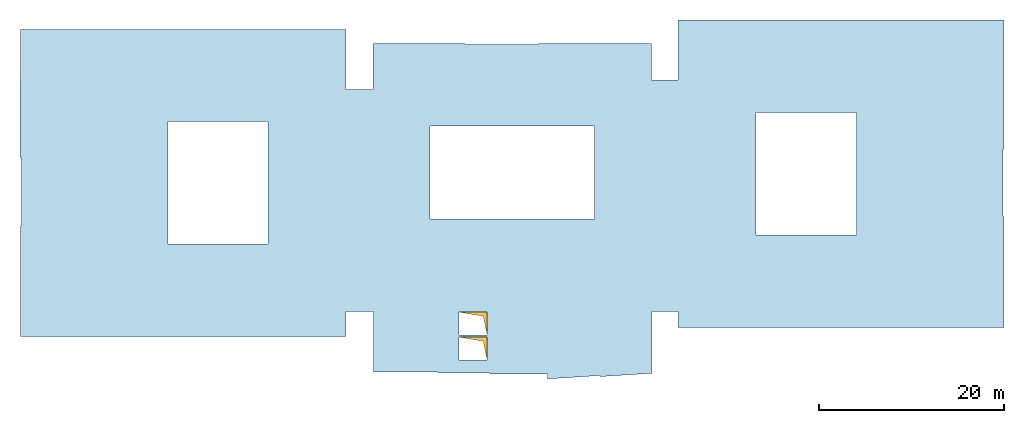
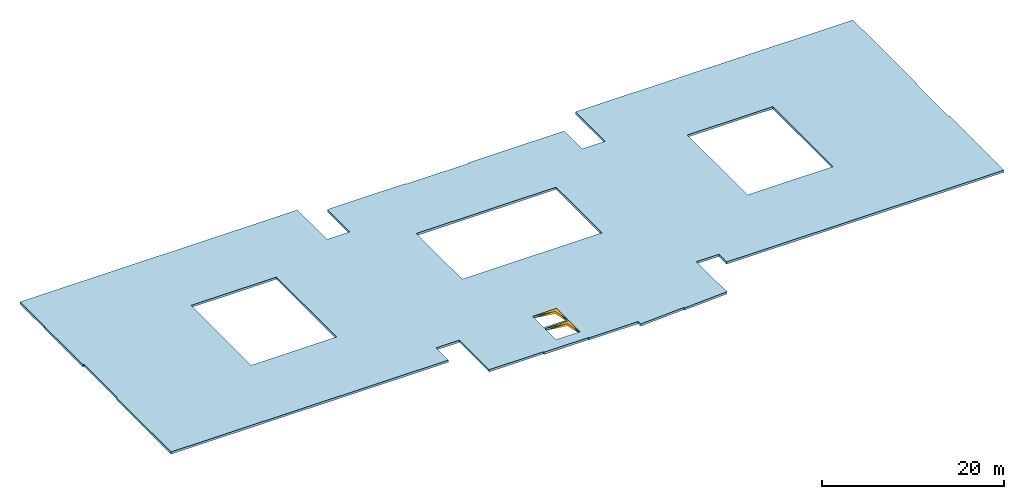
# One storey: 2 windows, 1 slab, 2 openings.
"""IFC4 building model written with IfcOpenShell, lengths in metres."""

from ifc_helpers import new_model, entity, si_unit, converted_unit, derived_unit, frame, frame_2d, origin, origin_with_axes, place, context, subcontext, project, spatial, polyline, rectangle, outline, extrude, open_shell, surface_model, source, transform, mapped, material, element, fill, save


model = new_model("IFC4")

# Units and contexts
model_context = context("Model", 3, precision=1e-05, world=origin())
body_context = subcontext(model_context, "Body", "Model", "MODEL_VIEW")
ifc_project = project(units=[si_unit("LENGTHUNIT", "METRE"), si_unit("AREAUNIT", "SQUARE_METRE"), si_unit("VOLUMEUNIT", "CUBIC_METRE"), si_unit("MASSUNIT", "GRAM", prefix="KILO"), converted_unit("PLANEANGLEUNIT", "DEGREE", entity("IfcPlaneAngleMeasure", 0.0174532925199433), si_unit("PLANEANGLEUNIT", "RADIAN"), dimensions=[0, 0, 0, 0, 0, 0, 0]), derived_unit("THERMALTRANSMITTANCEUNIT", [(si_unit("POWERUNIT", "WATT"), 1), (si_unit("THERMODYNAMICTEMPERATUREUNIT", "KELVIN"), -1), (si_unit("LENGTHUNIT", "METRE"), -2)]), derived_unit("VOLUMETRICFLOWRATEUNIT", [(si_unit("LENGTHUNIT", "METRE"), 3), (converted_unit("TIMEUNIT", "hour", entity("IfcTimeMeasure", 3600.0), si_unit("TIMEUNIT", "SECOND"), dimensions=[0, 0, 1, 0, 0, 0, 0]), -1), (si_unit("LENGTHUNIT", "METRE"), -1)])], contexts=[model_context])

# Site, building, storey
site_placement = place(None, origin())
site = spatial("IfcSite", under=ifc_project, at=site_placement, Name="Psychiatrie Neubau Wunstorf", CompositionType="ELEMENT")
building_placement = place(site_placement, origin())
building = spatial("IfcBuilding", under=site, at=building_placement, Name="Neubau H2 Stationsgebäude", CompositionType="ELEMENT")
storey_placement = place(building_placement, frame((0.0, 0.0, -3.1)))
storey = spatial("IfcBuildingStorey", under=building, at=storey_placement, Name="H2 Gründung", CompositionType="ELEMENT", Elevation=-3.1)

# Slab, openings, windows
ifc_material = material(Name="WUB")
slab_placement = place(storey_placement, frame((-0.121, -6.92899546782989, 2.6)))
slab = element("IfcSlab", 1, at=slab_placement, inside=storey, material=ifc_material, PredefinedType="BASESLAB", context=body_context, shape_type="SweptSolid", body=[
    extrude(outline(polyline([(38.151, 0.73399515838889), (45.037004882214, 0.73399515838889), (45.037004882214, 0.618995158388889), (50.7009996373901, 0.618995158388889), (50.7009996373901, 0.53899515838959), (56.9140593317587, 0.53899515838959), (56.9486452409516, 0.0), (62.6210107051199, 0.363980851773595), (62.6210107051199, 0.248745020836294), (68.206, 0.607404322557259), (68.206, 7.26899515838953), (71.036, 7.26899515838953), (71.036, 5.56899546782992), (106.206, 5.56899546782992), (106.206, 17.5539953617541), (106.091, 17.5539953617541), (106.091, 24.7539954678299), (106.206, 24.7539954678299), (106.206, 38.7389954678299), (71.036, 38.7389954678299), (71.036, 32.2389954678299), (68.1459999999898, 32.2389954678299), (68.1459999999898, 36.1889951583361), (55.971, 36.1889951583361), (55.971, 36.0739951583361), (48.021, 36.0739951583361), (48.021, 36.1889951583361), (38.0960000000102, 36.1889951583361), (38.0960000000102, 31.2389954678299), (35.206, 31.2389954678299), (35.206, 37.7389954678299), (0.0360000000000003, 37.7389954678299), (0.0359999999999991, 32.2932580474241), (0.0, 32.2932580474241), (0.0, 23.8739953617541), (0.1510000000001, 23.8739953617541), (0.150999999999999, 16.5539953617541), (0.0359999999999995, 16.5539953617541), (0.0359999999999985, 4.56899546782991), (35.206, 4.5689954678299), (35.206, 7.26899515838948), (36.9611517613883, 7.26899515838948), (36.9611517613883, 7.26899790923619), (38.151, 7.26899790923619), (38.151, 0.73399515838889)]), holes=[polyline([(44.2560000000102, 17.2389951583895), (44.2560000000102, 27.318993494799), (61.9859975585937, 27.318993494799), (61.9859975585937, 17.2389951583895), (44.2560000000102, 17.2389951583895)]), polyline([(79.456, 28.7689954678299), (90.286, 28.7689954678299), (90.286, 15.5389954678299), (79.456, 15.5389954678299), (79.456, 28.7689954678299)]), polyline([(15.956, 14.5389954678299), (15.956, 27.7689954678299), (26.786, 27.7689954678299), (26.786, 14.5389954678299), (15.956, 14.5389954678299)])]), origin_with_axes(), (0.0, 0.0, 1.0), 0.3),
])
opening_1_placement = place(slab_placement, frame((47.3910048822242, 2.05399515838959, 0.0)))
opening_1 = element("IfcOpeningElement", 2, at=opening_1_placement, cuts=slab, Name="Deckendurchbruch", ObjectType="Opening", context=body_context, shape_type="SweptSolid", body=[
    extrude(rectangle(XDim=3.0299951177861, YDim=2.45, at=frame_2d((0.0, 0.0), x_axis=(-1.0, 0.0))), frame((1.51499755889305, 1.225, 0.0), z_axis=(0.0, 0.0, 1.0), x_axis=(1.0, 0.0, 0.0)), (0.0, 0.0, 1.0), 0.3),
])
opening_2_placement = place(slab_placement, frame((47.3910012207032, 4.7540015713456, 0.0)))
opening_2 = element("IfcOpeningElement", 3, at=opening_2_placement, cuts=slab, Name="Deckendurchbruch", ObjectType="Opening", context=body_context, shape_type="SweptSolid", body=[
    extrude(rectangle(XDim=3.0299987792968, YDim=2.4499938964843, at=frame_2d((0.0, 0.0), x_axis=(-1.0, 0.0))), frame((1.51499938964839, 1.22499694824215, 0.0), z_axis=(0.0, 0.0, 1.0), x_axis=(1.0, 0.0, 0.0)), (0.0, 0.0, 1.0), 0.3),
])
shared_shape = source(origin_with_axes(), body_context, "Body", "SurfaceModel", [
    surface_model("IfcShellBasedSurfaceModel", [(2.4499939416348, 3.02999874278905, 0.0), (4.51504993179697e-08, 3.0299987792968, 0.0), (0.0, 0.0, 0.0), (0.43310187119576, 2.5968969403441, 0.0)], [open_shell([[[0, 1, 2, 3]]], orient=[[False]])]),
    surface_model("IfcShellBasedSurfaceModel", [(2.4499939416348, 3.02999874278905, 0.3), (4.51504993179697e-08, 3.0299987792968, 0.3), (0.0, 0.0, 0.3), (0.43310187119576, 2.5968969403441, 0.3)], [open_shell([[[0, 1, 2, 3]]], orient=[[False]])]),
])
window_1_placement = place(opening_1_placement, frame((3.65076921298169e-08, 2.45, 0.0), z_axis=(0.0, 0.0, 1.0), x_axis=(1.22464982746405e-16, -1.00000247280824, 0.0)))
window_1 = element("IfcWindow", 4, at=window_1_placement, inside=storey, Name="Symbol BD", OverallHeight=3.03, OverallWidth=2.45, PartitioningType="USERDEFINED", PredefinedType="SKYLIGHT", context=body_context, shape_type="MappedRepresentation", body=[
    mapped(shared_shape, transform((0.0, 0.0, 0.0), x_axis=(1.0, 0.0, 0.0), y_axis=(0.0, 1.0, 0.0), z_axis=(0.0, 0.0, 1.0), scale=1.00000247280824)),
])
fill(opening_1, window_1)
window_2_placement = place(opening_2_placement, frame((3.65077357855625e-08, 2.4499938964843, 0.0), z_axis=(0.0, 0.0, 1.0), x_axis=(1.22464677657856e-16, -0.999999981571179, 0.0)))
window_2 = element("IfcWindow", 5, at=window_2_placement, inside=storey, Name="Symbol BD", OverallHeight=3.03, OverallWidth=2.44999, PartitioningType="USERDEFINED", PredefinedType="SKYLIGHT", context=body_context, shape_type="MappedRepresentation", body=[
    mapped(shared_shape, transform((0.0, 0.0, 0.0), x_axis=(1.0, 0.0, 0.0), y_axis=(0.0, 1.0, 0.0), z_axis=(0.0, 0.0, 1.0), scale=0.999999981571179)),
])
fill(opening_2, window_2)

save(model, "model.ifc")
